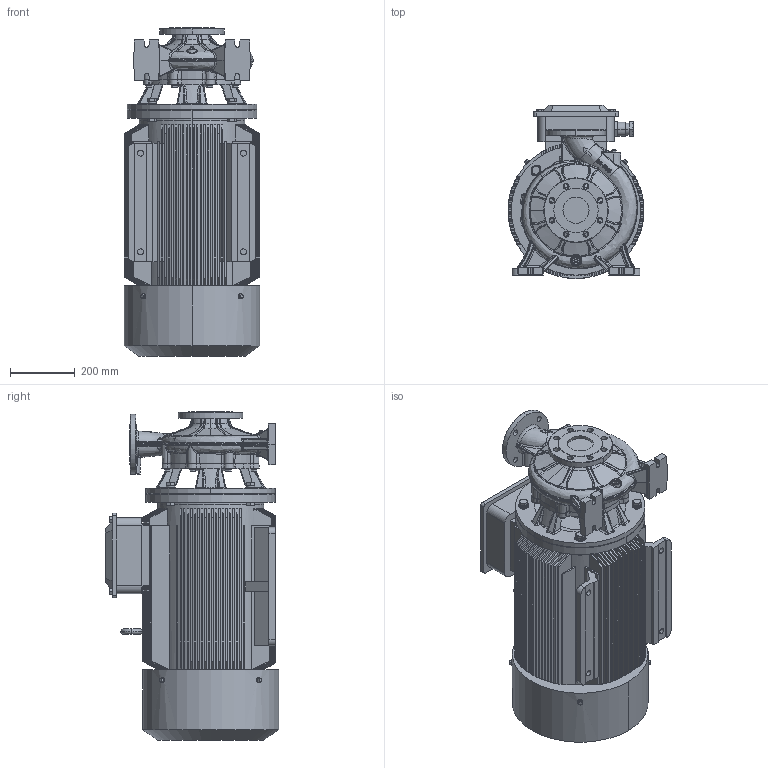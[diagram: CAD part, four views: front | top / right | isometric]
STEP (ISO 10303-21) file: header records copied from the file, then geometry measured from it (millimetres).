
FILE_DESCRIPTION (( 'STEP AP203' ), '1' );
FILE_NAME ('TST65-250-30 安装尺寸图.STEP', '2026-04-28T09:14:43', ( '微软用户' ), ( '微软中国' ), 'SwSTEP 2.0', 'SolidWorks 2020', '' );
FILE_SCHEMA (( 'CONFIG_CONTROL_DESIGN' ));
Products named in the file (1): TST65-250-30 假蚾喜渡芞
Bounding box: 420 x 535 x 1014 mm (x, y, z)
Volume: 105782390.5 mm3; surface area: 5582604.5 mm2
Topology: 1 solids, 3 shells, 3262 faces, 8186 edges, 5013 vertices
Faces by surface type: bspline 906, cylinder 837, plane 806, cone 553, torus 125, sphere 35
Entity records: 185137 total; most frequent: CARTESIAN_POINT 115882, ORIENTED_EDGE 16362, DIRECTION 11931, EDGE_CURVE 8181, VERTEX_POINT 5013, AXIS2_PLACEMENT_3D 4859, EDGE_LOOP 3418, B_SPLINE_CURVE_WITH_KNOTS 3310
